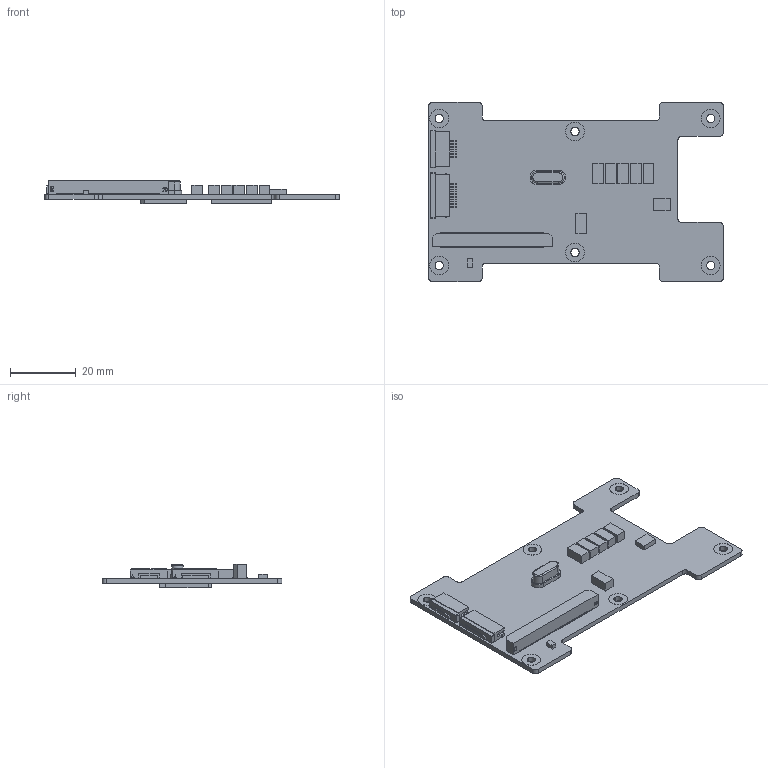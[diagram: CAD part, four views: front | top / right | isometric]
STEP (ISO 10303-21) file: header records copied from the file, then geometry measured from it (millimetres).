
FILE_DESCRIPTION (( 'STEP AP214' ), '1' );
FILE_NAME ('710-00487-A Pluggable Process Module B1.STEP', '2018-09-11T23:10:14', ( '' ), ( '' ), 'SwSTEP 2.0', 'SolidWorks 2014', '' );
FILE_SCHEMA (( 'AUTOMOTIVE_DESIGN' ));
Length unit declared in the file: inch
Products named in the file (2): 710-00487-A Pluggable Process Module B1
Bounding box: 89.53 x 54.61 x 7.09 mm (x, y, z)
Volume: 7929.3 mm3; surface area: 9772.8 mm2
Topology: 1 solids, 3 shells, 500 faces, 1356 edges, 900 vertices
Faces by surface type: plane 355, cylinder 128, bspline 15, torus 2
Entity records: 19692 total; most frequent: CARTESIAN_POINT 3967, ORIENTED_EDGE 2712, DIRECTION 2554, EDGE_CURVE 1356, VECTOR 1068, LINE 1068, VERTEX_POINT 900, AXIS2_PLACEMENT_3D 743
